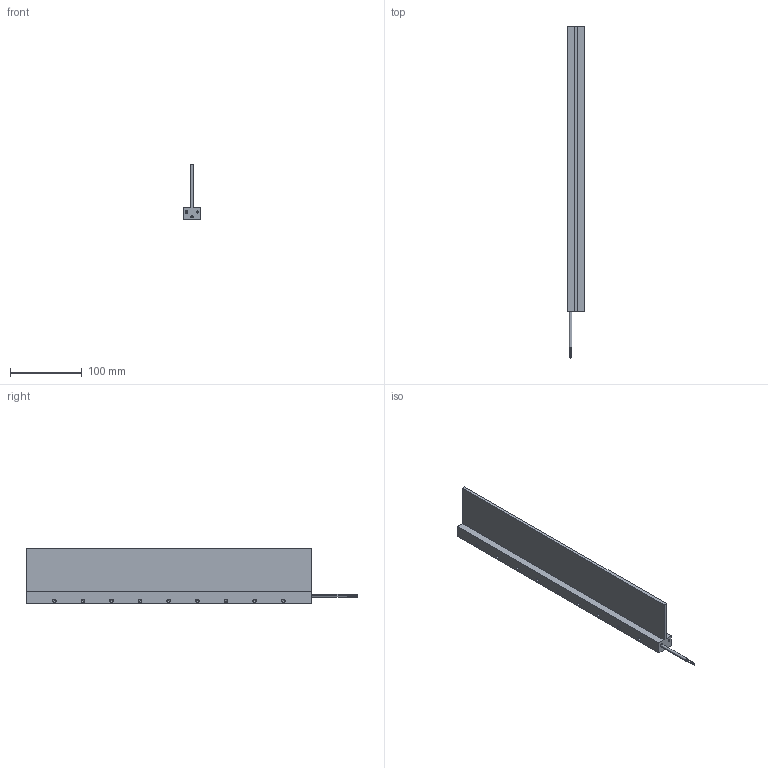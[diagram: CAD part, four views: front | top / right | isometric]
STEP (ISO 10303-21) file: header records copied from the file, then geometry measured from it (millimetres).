
FILE_DESCRIPTION((''),'2;1');
FILE_NAME('IL24-050','2006-04-05T',('saurabh.singhal'),('Kollmorgen'),'PRO/ENGINEER BY PARAMETRIC TECHNOLOGY CORPORATION, 2005310','PRO/ENGINEER BY PARAMETRIC TECHNOLOGY CORPORATION, 2005310','');
FILE_SCHEMA(('CONFIG_CONTROL_DESIGN'));
Length unit declared in the file: millimetre
Products named in the file (1): IL24-050
Bounding box: 24.4 x 463.8 x 77.3 mm (x, y, z)
Volume: 268953.1 mm3; surface area: 89234.2 mm2
Topology: 1 solids, 41 shells, 329 faces, 822 edges, 508 vertices
Faces by surface type: cylinder 186, cone 80, plane 63
Entity records: 9415 total; most frequent: DIRECTION 1854, CARTESIAN_POINT 1580, ORIENTED_EDGE 1324, AXIS2_PLACEMENT_3D 782, EDGE_CURVE 742, VERTEX_POINT 508, CIRCLE 452, EDGE_LOOP 422
